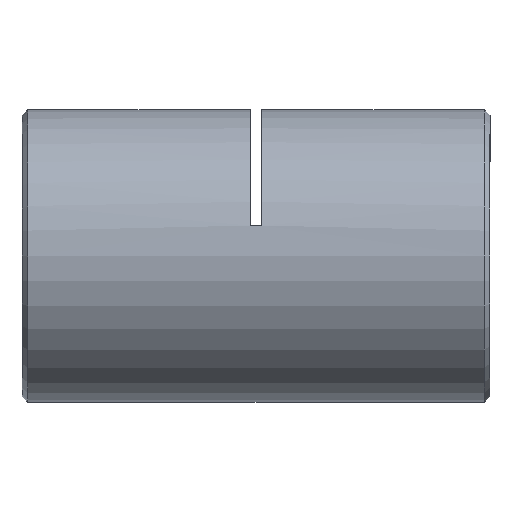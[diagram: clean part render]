
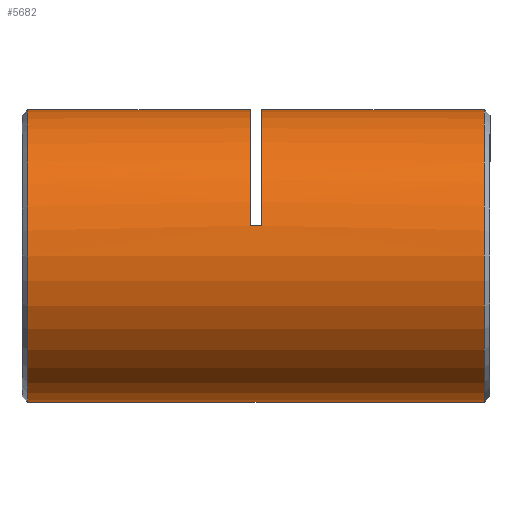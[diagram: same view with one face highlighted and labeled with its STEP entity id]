
A CAD part, left-side view. The second image highlights one B-rep face of the part: STEP entity #5682.
In plain terms, the highlighted cylindrical face has radius 12.5 mm (diameter 25 mm), a partial arc.
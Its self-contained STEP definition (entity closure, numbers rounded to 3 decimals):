
#26 = VERTEX_POINT ( 'NONE', #1021 ) ;
#104 = DIRECTION ( 'NONE',  ( 0., 0., 1. ) ) ;
#105 = AXIS2_PLACEMENT_3D ( 'NONE', #4110, #657, #250 ) ;
#206 = EDGE_CURVE ( 'NONE', #3547, #26, #1448, .T. ) ;
#208 = AXIS2_PLACEMENT_3D ( 'NONE', #966, #2766, #1442 ) ;
#233 = CARTESIAN_POINT ( 'NONE',  ( 0., 39.75, -12.5 ) ) ;
#250 = DIRECTION ( 'NONE',  ( 0., 0., -1. ) ) ;
#448 = CARTESIAN_POINT ( 'NONE',  ( 0., 40.5, -12.5 ) ) ;
#472 = ORIENTED_EDGE ( 'NONE', *, *, #5551, .T. ) ;
#516 = CARTESIAN_POINT ( 'NONE',  ( 0., 0.75, 0. ) ) ;
#657 = DIRECTION ( 'NONE',  ( 0., -1., 0. ) ) ;
#966 = CARTESIAN_POINT ( 'NONE',  ( 0., 39.75, 0. ) ) ;
#968 = CARTESIAN_POINT ( 'NONE',  ( 0., 0.75, -12.5 ) ) ;
#1021 = CARTESIAN_POINT ( 'NONE',  ( 0., 19.75, 12.5 ) ) ;
#1123 = VECTOR ( 'NONE', #4486, 1000. ) ;
#1159 = AXIS2_PLACEMENT_3D ( 'NONE', #1246, #5325, #2577 ) ;
#1223 = EDGE_CURVE ( 'NONE', #3862, #2728, #5400, .T. ) ;
#1246 = CARTESIAN_POINT ( 'NONE',  ( 0., 19.75, 0. ) ) ;
#1285 = LINE ( 'NONE', #448, #1123 ) ;
#1381 = VECTOR ( 'NONE', #1711, 1000. ) ;
#1442 = DIRECTION ( 'NONE',  ( 0., 0., -1. ) ) ;
#1448 = CIRCLE ( 'NONE', #1159, 12.5 ) ;
#1668 = EDGE_CURVE ( 'NONE', #3916, #2728, #5029, .T. ) ;
#1691 = VECTOR ( 'NONE', #5099, 1000. ) ;
#1705 = VERTEX_POINT ( 'NONE', #2017 ) ;
#1711 = DIRECTION ( 'NONE',  ( 0., 1., 0. ) ) ;
#1793 = VECTOR ( 'NONE', #1855, 1000. ) ;
#1855 = DIRECTION ( 'NONE',  ( 0., -1., 0. ) ) ;
#1928 = CARTESIAN_POINT ( 'NONE',  ( 0., 20.75, 0. ) ) ;
#2017 = CARTESIAN_POINT ( 'NONE',  ( 0., 0.75, 12.5 ) ) ;
#2055 = ORIENTED_EDGE ( 'NONE', *, *, #1223, .F. ) ;
#2067 = CIRCLE ( 'NONE', #208, 12.5 ) ;
#2094 = CARTESIAN_POINT ( 'NONE',  ( -12.226, 20.75, 2.604 ) ) ;
#2152 = EDGE_CURVE ( 'NONE', #26, #1705, #3792, .T. ) ;
#2236 = DIRECTION ( 'NONE',  ( 0., 1., 0. ) ) ;
#2373 = EDGE_CURVE ( 'NONE', #3547, #3916, #2620, .T. ) ;
#2418 = VERTEX_POINT ( 'NONE', #968 ) ;
#2422 = EDGE_CURVE ( 'NONE', #2418, #1705, #4225, .T. ) ;
#2448 = ORIENTED_EDGE ( 'NONE', *, *, #5406, .T. ) ;
#2577 = DIRECTION ( 'NONE',  ( 0., 0., 1. ) ) ;
#2620 = LINE ( 'NONE', #5796, #1381 ) ;
#2728 = VERTEX_POINT ( 'NONE', #3513 ) ;
#2766 = DIRECTION ( 'NONE',  ( 0., -1., 0. ) ) ;
#2958 = CARTESIAN_POINT ( 'NONE',  ( 0., 40.5, 12.5 ) ) ;
#3188 = CYLINDRICAL_SURFACE ( 'NONE', #105, 12.5 ) ;
#3423 = ORIENTED_EDGE ( 'NONE', *, *, #2152, .F. ) ;
#3513 = CARTESIAN_POINT ( 'NONE',  ( 0., 20.75, 12.5 ) ) ;
#3547 = VERTEX_POINT ( 'NONE', #3948 ) ;
#3564 = ORIENTED_EDGE ( 'NONE', *, *, #2422, .T. ) ;
#3792 = LINE ( 'NONE', #2958, #1691 ) ;
#3862 = VERTEX_POINT ( 'NONE', #4273 ) ;
#3871 = VERTEX_POINT ( 'NONE', #233 ) ;
#3916 = VERTEX_POINT ( 'NONE', #2094 ) ;
#3948 = CARTESIAN_POINT ( 'NONE',  ( -12.226, 19.75, 2.604 ) ) ;
#4110 = CARTESIAN_POINT ( 'NONE',  ( 0., 40.5, 0. ) ) ;
#4225 = CIRCLE ( 'NONE', #5082, 12.5 ) ;
#4273 = CARTESIAN_POINT ( 'NONE',  ( 0., 39.75, 12.5 ) ) ;
#4398 = ORIENTED_EDGE ( 'NONE', *, *, #1668, .T. ) ;
#4486 = DIRECTION ( 'NONE',  ( 0., -1., 0. ) ) ;
#4520 = CARTESIAN_POINT ( 'NONE',  ( 0., 40.5, 12.5 ) ) ;
#4566 = ORIENTED_EDGE ( 'NONE', *, *, #2373, .T. ) ;
#4816 = ORIENTED_EDGE ( 'NONE', *, *, #206, .F. ) ;
#5029 = CIRCLE ( 'NONE', #5794, 12.5 ) ;
#5082 = AXIS2_PLACEMENT_3D ( 'NONE', #516, #2236, #104 ) ;
#5099 = DIRECTION ( 'NONE',  ( 0., -1., 0. ) ) ;
#5109 = DIRECTION ( 'NONE',  ( 0., 0., 1. ) ) ;
#5325 = DIRECTION ( 'NONE',  ( 0., 1., 0. ) ) ;
#5400 = LINE ( 'NONE', #4520, #1793 ) ;
#5406 = EDGE_CURVE ( 'NONE', #3871, #2418, #1285, .T. ) ;
#5457 = FACE_OUTER_BOUND ( 'NONE', #5641, .T. ) ;
#5551 = EDGE_CURVE ( 'NONE', #3862, #3871, #2067, .T. ) ;
#5564 = DIRECTION ( 'NONE',  ( 0., 1., 0. ) ) ;
#5641 = EDGE_LOOP ( 'NONE', ( #2055, #472, #2448, #3564, #3423, #4816, #4566, #4398 ) ) ;
#5682 = ADVANCED_FACE ( 'NONE', ( #5457 ), #3188, .T. ) ;
#5794 = AXIS2_PLACEMENT_3D ( 'NONE', #1928, #5564, #5109 ) ;
#5796 = CARTESIAN_POINT ( 'NONE',  ( -12.226, 20.25, 2.604 ) ) ;
